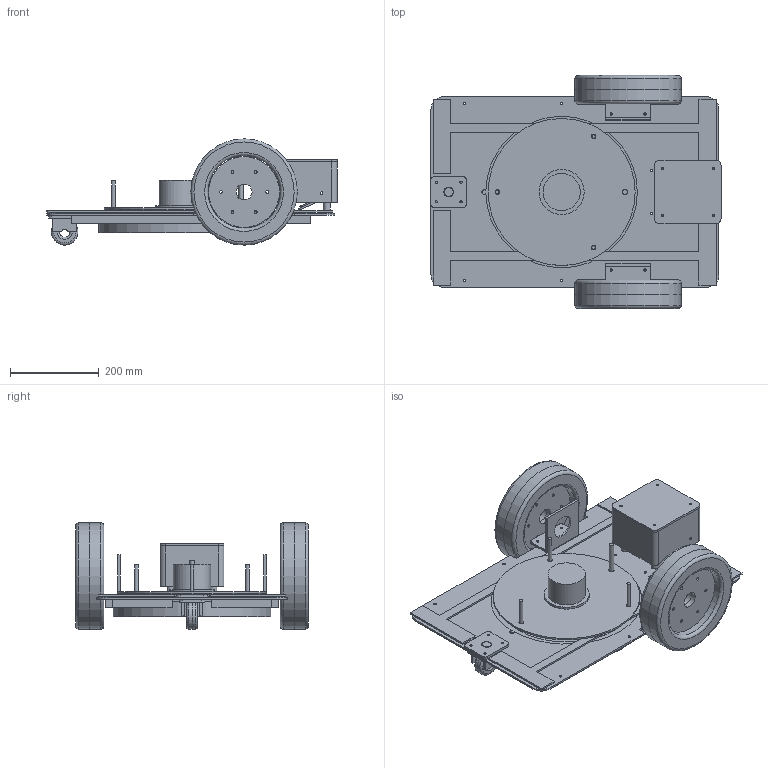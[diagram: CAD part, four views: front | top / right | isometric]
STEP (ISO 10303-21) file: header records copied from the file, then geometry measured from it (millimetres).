
FILE_DESCRIPTION(('Open CASCADE Model'),'2;1');
FILE_NAME('Open CASCADE Shape Model','2026-09-16T16:54:27',('Author'),( 'Open CASCADE'),'Open CASCADE STEP processor 7.8','Open CASCADE 7.8' ,'Unknown');
FILE_SCHEMA(('AUTOMOTIVE_DESIGN { 1 0 10303 214 1 1 1 1 }'));
Length unit declared in the file: millimetre
Products named in the file (27): mower_service_view_no_upper_cover; lower_chassis_plate; chassis_reinforcement_frame; cover_mounting_flange; left_drive_tire; left_drive_hub; left_wheel_motor_bracket; rear_caster_mount; rear_caster_fork; rear_caster_wheel; cutting_deck_guard; cut_height_carriage; blade_carrier_disc; blade_motor_proxy; cutting_blade_1; cut_height_guide_rod_1; cut_height_lead_screw; laser_pod_standoff_1; laser_pod_body; laser_pod_lid; laser_optical_window; laser_window_retainer; laser_pan_plate; laser_tilt_yoke; laser_emitter_cartridge; laser_pan_servo_proxy; laser_pan_drive_pinion
Assembly tree (37 placements, depth 2):
  mower_service_view_no_upper_cover
    lower_chassis_plate
    chassis_reinforcement_frame
    cover_mounting_flange
    left_drive_tire  x2
    left_drive_hub  x2
    left_wheel_motor_bracket  x2
    rear_caster_mount
    rear_caster_fork
    rear_caster_wheel
    cutting_deck_guard
    cut_height_carriage
    blade_carrier_disc
    blade_motor_proxy
    cutting_blade_1  x3
    cut_height_guide_rod_1  x3
    cut_height_lead_screw
    laser_pod_standoff_1  x4
    laser_pod_body
    laser_pod_lid
    laser_optical_window
    laser_window_retainer
    laser_pan_plate
    laser_tilt_yoke
    laser_emitter_cartridge
    laser_pan_servo_proxy  x2
    laser_pan_drive_pinion
Bounding box: 655 x 526 x 240 mm (x, y, z)
Volume: 7975713.4 mm3; surface area: 1829411.5 mm2
Topology: 37 solids, 37 shells, 541 faces, 1307 edges, 857 vertices
Faces by surface type: cylinder 271, plane 258, torus 12
Full cylindrical faces by diameter (mm): 3.2 x4, 4.2 x4, 5.2 x44, 5.5 x9, 6 x2, 6.2 x1, 6.4 x2, 6.6 x24, 8 x3, 8.2 x2, 10 x1, 10.2 x5, 10.6 x2, 12 x3, 16 x7, 17 x4, 20 x1, 22.2 x3, 24 x2, 32 x1, 36 x4, 40 x1, 52 x2, 60 x2, 76 x2, 84 x1, 86 x1, 102 x1, 160 x4, 164 x4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
Entity records: 28423 total; most frequent: CARTESIAN_POINT 6546, DIRECTION 4027, ORIENTED_EDGE 2082, PCURVE 2082, DEFINITIONAL_REPRESENTATION 2082, LINE 2062, VECTOR 2062, EDGE_CURVE 1041
